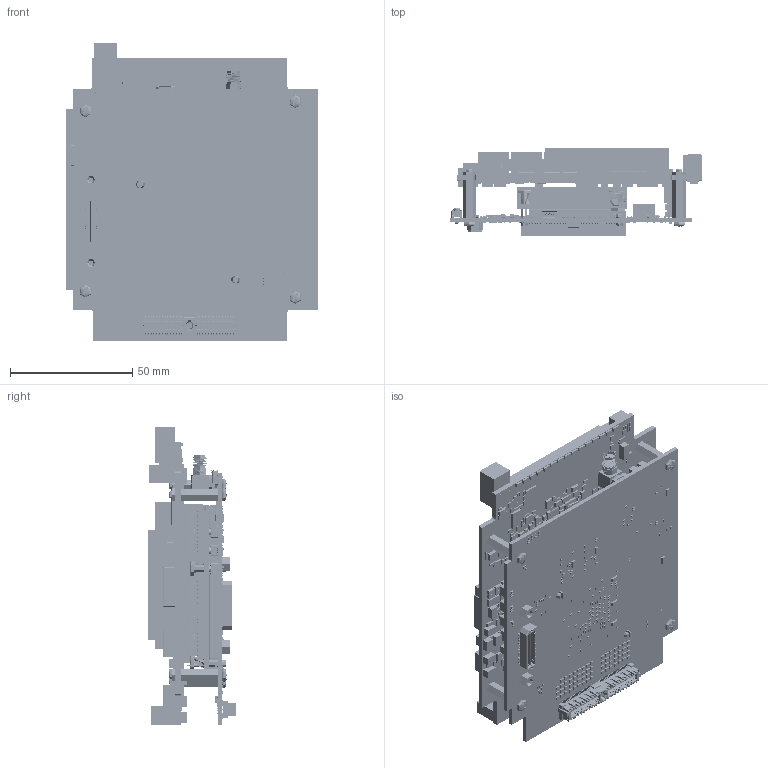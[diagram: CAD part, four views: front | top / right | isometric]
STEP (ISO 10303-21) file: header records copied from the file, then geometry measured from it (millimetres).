
FILE_DESCRIPTION (( 'STEP AP214' ), '1' );
FILE_NAME ('PCIe104N_host SBC_SW02.STEP', '2023-08-23T08:21:34', ( '1' ), ( '' ), 'SwSTEP 2.0', 'SolidWorks 2020', '' );
FILE_SCHEMA (( 'AUTOMOTIVE_DESIGN' ));
Length unit declared in the file: millimetre
Products named in the file (1003): Submodel-SSP_1_comma_0_2160325372_part_SSP_1_comma_0_PCB_rev1.5; 0402.xtd_PCB_20230817; Submodel-noModelForPart_RC0402JR-071KL_1645218947_PCB_rev1.5; Submodel-MT40A1G16RC-062EIT_1542200452_part_BGA-96[9x16]_0_comma_45_slash_0_comma_8_10x13x1_comma_1_PCB_rev1.5; placementOutline-201_PCB_rev1.5; Submodel-noModelForPart_RC0402FR-0739R2L_27045401_PCB_rev1.5; Submodel-RC0402FR-0710KL_3324379680_part_0402_BGA_1_comma_00_PCB_rev1.5; placementOutline-143_PCB_rev1.5; Submodel-BLM18PG471SN1D_1389133707_part_0603_PCB_rev1.5; Submodel-DMN2058UW_part_simplified_SOT-323_PCB_20230817; Submodel-noModelForPart_CC0402KRX7R7BB104_3790143455_PCB_rev1.5; Submodel-CL32B102KJFNNNE_4263245521_part_1210_PCB_rev1.5; Submodel-MT25QU01GBBB8E12-0SIT_part_simplified_BGA-24[5x5]_0_comma_40_slash_1_comma_0_6x8x1_comma_2_PCB_20230817; Submodel-noModelForPart_GRM32ER61E226ME15_4263245521_PCB_rev1.5; Submodel-DB3X313N0L_1231288701_part_SOT-23-3_PCB_rev1.5; Submodel-noModelForPart_CC0805MKX5R5BB226_1903858555_PCB_rev1.5; SOD-123.xtd_PCB_20230817; FCI_10118193-0001LF_PCB_20230817; placementOutline-10_PCB_rev1.5; Submodel-noModelForPart_RC0402FR-07100RL_796972932_PCB_rev1.5; Submodel-RC0402JR-0722RL_3880356741_part_0402_BGA_1_comma_00_PCB_rev1.5; Submodel-XCZU7EV-2FFVC1156I_2003526232_part_BGA-1156[34x34]_0_comma_60_slash_1_comma_0_35x35x3_comma_5_PCB_rev1.5; Submodel-NRV2010T1R0NGF_1575428672_part_Taiyo_2010_PCB_rev1.5; placementOutline-262_PCB_rev1.5; QFN-16[6x2]_0,25_0,50_3,5x2,5x1_HD[2,15x1,15]_PCB_20230817; Submodel-PMZ290UNEYL_123379919_part_SOT-883_PCB_rev1.5; Submodel-RC0402FR-07560RL_part_simplified_0402_PCB_20230817; Submodel-CC0603MRX5R5BB476_2015160869_part_0603_PCB_20230817; Submodel-noModelForPart_RC0402FR-07442RL_442540668_PCB_rev1.5; Submodel-RC0402FR-0756K2L_part_simplified_0402_PCB_20230817; Submodel-RC0402FR-0712K1L_3880356741_part_0402_BGA_1_comma_00_PCB_rev1.5; Submodel-noModelForPart_CC0402KRX7R9BB103_27045401_PCB_rev1.5; Submodel-GRM32ER61E226ME15_3243889752_part_1210_PCB_rev1.5; Submodel-noModelForPart_RC0402FR-0730K1L_27045401_PCB_rev1.5; gray-148_PCB_rev1.5; Submodel-RT0402BRD07499RL_27045401_part_0402_BGA_1_comma_00_PCB_rev1.5; Submodel-noModelForPart_RC0402FR-071ML_796972932_PCB_rev1.5; Submodel-noModelForPart_PUSB3FR4Z_2788215846_PCB_rev1.5; Submodel-noModelForPart_RC0402JR-070RL_442540668_PCB_rev1.5; Submodel-RC0402FR-074K7L_442540668_part_0402_BGA_1_comma_00_PCB_rev1.5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
Assembly tree (2321 placements, depth 6):
  PCIe104N_host SBC_SW02
    PCIe104N_PCB_20230817
      Submodel-CC0402KRX7R7BB104_part_simplified_0402_BGA_1_comma_00_PCB_20230817  x32
        0402.xtd_PCB_20230817
          0402_PCB_20230817
      Submodel-RC0402FR-0710KL_part_simplified_0402_PCB_20230817  x20
        0402.xtd_PCB_20230817
          0402_PCB_20230817
      Submodel-MT40A1G16TB-062EIT_part_simplified_BGA-96[9x16]_0_comma_45_slash_0_comma_8_10_comma_5x14x1_comma_1_DDR4_MaxSize_PCB_20230817  x2
        BGA-96[9x16]_0_comma_45_0_comma_8_7_comma_5x13x1_comma_1.xtd_PCB_20230817
          BGA-96[9x16]_0,45_0,8_7,5x13x1,1_PCB_20230817
      Submodel-CC0402KRX7R7BB104_part_simplified_0402_PCB_20230817  x58
        0402.xtd_PCB_20230817
          0402_PCB_20230817
      Submodel-RC0402FR-07560RL_part_simplified_0402_PCB_20230817  x5
        0402.xtd_PCB_20230817
          0402_PCB_20230817
      Submodel-RC0402FR-07124KL_part_simplified_0402_PCB_20230817  x6
        0402.xtd_PCB_20230817
          0402_PCB_20230817
      Submodel-BLM15AG601SN1_part_simplified_0402_PCB_20230817  x2
        0402.xtd_PCB_20230817
          0402_PCB_20230817
      Submodel-DNP-RES_0402_part_simplified_0402_BGA_1_comma_00_PCB_20230817  x4
        0402.xtd_PCB_20230817
          0402_PCB_20230817
      Submodel-CC0402MRX5R5BB475_part_simplified_0402_BGA_1_comma_00_PCB_20230817  x29
        0402.xtd_PCB_20230817
          0402_PCB_20230817
      Submodel-RC0402FR-07200RL_part_simplified_0402_PCB_20230817  x2
        0402.xtd_PCB_20230817
          0402_PCB_20230817
      Submodel-CC0402KRX7R8BB103_part_simplified_0402_PCB_20230817  x3
        0402.xtd_PCB_20230817
          0402_PCB_20230817
      Submodel-DNP-RES_0402_part_simplified_0402_PCB_20230817  x2
        0402.xtd_PCB_20230817
          0402_PCB_20230817
      Submodel-RC0402FR-0739R2L_part_simplified_0402_PCB_20230817  x26
        0402.xtd_PCB_20230817
          0402_PCB_20230817
      Submodel-530480350_part_simplified_Molex_530480350_PCB_20230817
        Molex_530480350.xtd_PCB_20230817
          Molex_530480350_PCB_20230817
      Submodel-CC0402MRX5R5BB475_part_simplified_0402_PCB_20230817  x22
        0402.xtd_PCB_20230817
          0402_PCB_20230817
      Submodel-RC0402FR-0712K1L_part_simplified_0402_PCB_20230817
        0402.xtd_PCB_20230817
          0402_PCB_20230817
      Submodel-BLM15AG601SN1_part_simplified_0402_BGA_1_comma_00_PCB_20230817  x3
        0402.xtd_PCB_20230817
          0402_PCB_20230817
      Submodel-ASP-129637-02_part_simplified_Samtec_ASP-129637-02_PCB_20230817
        Samtec_ASP-129637-02.xtd_PCB_20230817
          Samtec_ASP-129637-02_PCB_20230817
      Submodel-RC0402FR-074K7L_part_simplified_0402_PCB_20230817
        0402.xtd_PCB_20230817
          0402_PCB_20230817
      Submodel-RC0402FR-07100RL_part_simplified_0402_PCB_20230817  x2
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Bounding box: 103.31 x 36.01 x 121.67 mm (x, y, z)
Topology: 2970 solids, 3010 shells, 53532 faces, 140789 edges, 92211 vertices
Faces by surface type: plane 42966, cylinder 9142, sphere 1110, bspline 112, cone 102, torus 100
Full cylindrical faces by diameter (mm): 0.102 x2, 0.203 x7, 0.254 x3, 0.305 x6, 0.406 x2, 0.914 x1
Entity records: 1235022 total; most frequent: CARTESIAN_POINT 231567, ORIENTED_EDGE 206774, DIRECTION 196341, EDGE_CURVE 103390, LINE 83653, VECTOR 83653, VERTEX_POINT 68086, AXIS2_PLACEMENT_3D 56344
